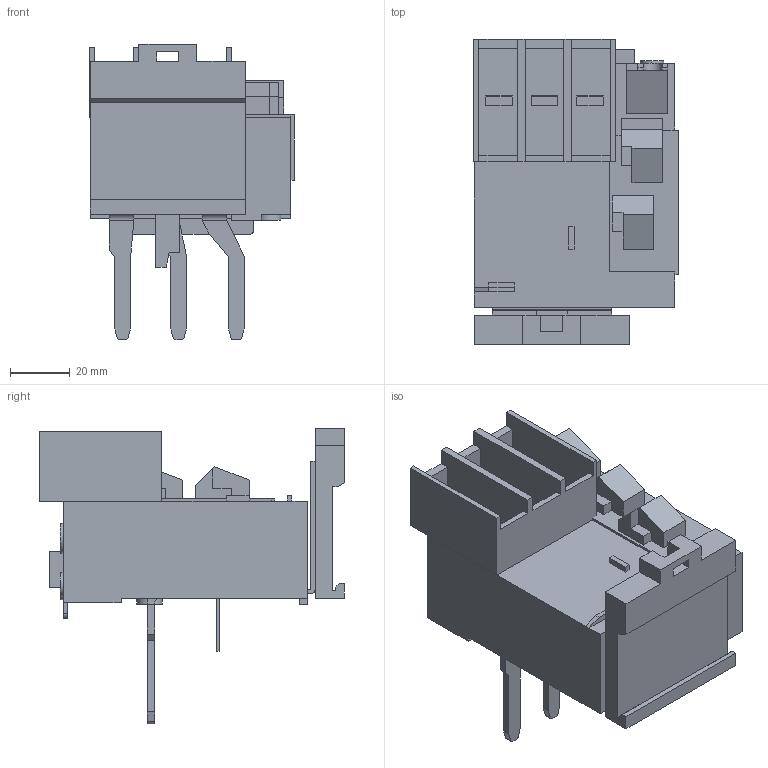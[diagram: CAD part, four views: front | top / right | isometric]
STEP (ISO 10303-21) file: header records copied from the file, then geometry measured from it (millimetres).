
FILE_DESCRIPTION (( 'STEP AP203' ), '1' );
FILE_NAME ('U3-74.STEP', '2014-04-29T09:23:57', ( '' ), ( '' ), 'SwSTEP 2.0', 'SolidWorks 2014', '' );
FILE_SCHEMA (( 'CONFIG_CONTROL_DESIGN' ));
Length unit declared in the file: millimetre
Products named in the file (9): U3-42; Montagewinkel; Tragplatte; Isolierkörper; Anschlusswinkel_L1; Anschlusswinkel_L3; Anschlusswinkel_Standart; Stützwinkel; U3-74
Assembly tree (8 placements, depth 2):
  U3-74
    U3-42
    Montagewinkel
    Tragplatte
    Isolierkörper
    Anschlusswinkel_L1
    Anschlusswinkel_L3
    Anschlusswinkel_Standart
    Stützwinkel
Bounding box: 68.6 x 102.1 x 99 mm (x, y, z)
Volume: 212932.6 mm3; surface area: 59931.3 mm2
Topology: 9 solids, 9 shells, 463 faces, 1172 edges, 756 vertices
Faces by surface type: plane 376, cylinder 87
Entity records: 14709 total; most frequent: CARTESIAN_POINT 2408, ORIENTED_EDGE 2344, DIRECTION 2292, EDGE_CURVE 1172, VECTOR 996, LINE 996, VERTEX_POINT 756, AXIS2_PLACEMENT_3D 648
